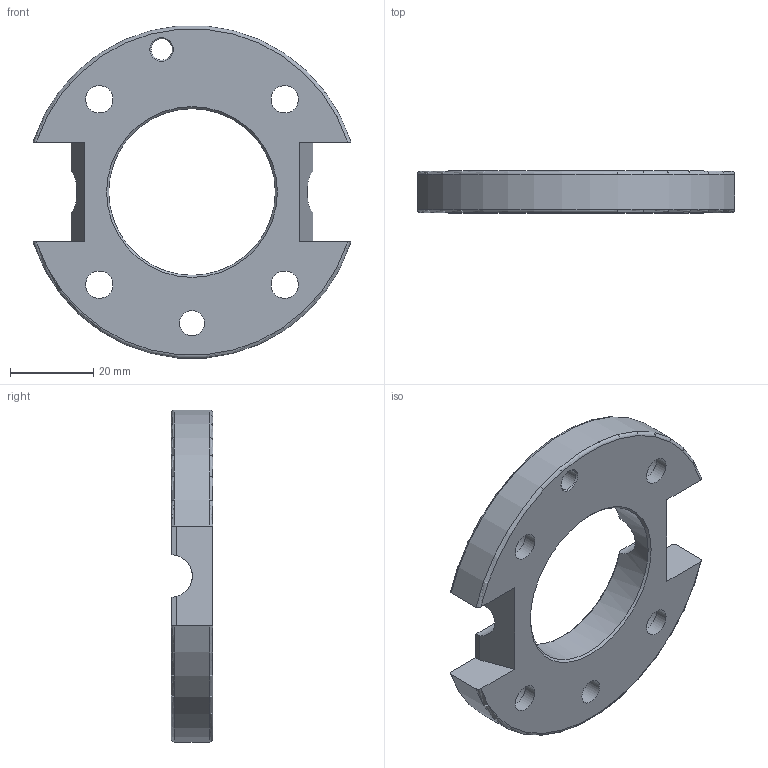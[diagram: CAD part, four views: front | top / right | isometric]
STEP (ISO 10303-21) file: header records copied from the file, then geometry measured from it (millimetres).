
FILE_DESCRIPTION(/* description */ ('G-SWA080-Unterteil'),/* implementation_level */ '2;1');
FILE_NAME(/* name */ '\\dc01\daten\CAD\Standard\Daten\3D-Datenbank\SWA\4 - 3D-CAD-Daten SWA 050-160\SWA080\step-Daten\G-SWA080-2U.stp',/* time_stamp */ '2020-01-29T16:10:40+01:00',/* author */ ('ysplieth'),/* organization */ ('GRIP GmbH'),/* preprocessor_version */ 'ST-DEVELOPER v17',/* originating_system */ 'Autodesk Inventor 2018',/* authorisation */ '');
FILE_SCHEMA (('AUTOMOTIVE_DESIGN { 1 0 10303 214 3 1 1 }'));
Length unit declared in the file: millimetre
Products named in the file (1): G-SWA080-5.1
Bounding box: 76.32 x 10 x 79.72 mm (x, y, z)
Volume: 27745.5 mm3; surface area: 11488.7 mm2
Topology: 1 solids, 1 shells, 41 faces, 116 edges, 80 vertices
Faces by surface type: plane 17, cylinder 15, cone 5, torus 4
Full cylindrical faces by diameter (mm): 5.1 x1, 6 x1, 6.6 x4, 11 x4, 40 x1
Entity records: 1523 total; most frequent: CARTESIAN_POINT 357, DIRECTION 238, ORIENTED_EDGE 232, EDGE_CURVE 116, AXIS2_PLACEMENT_3D 95, VERTEX_POINT 80, EDGE_LOOP 58, CIRCLE 51
